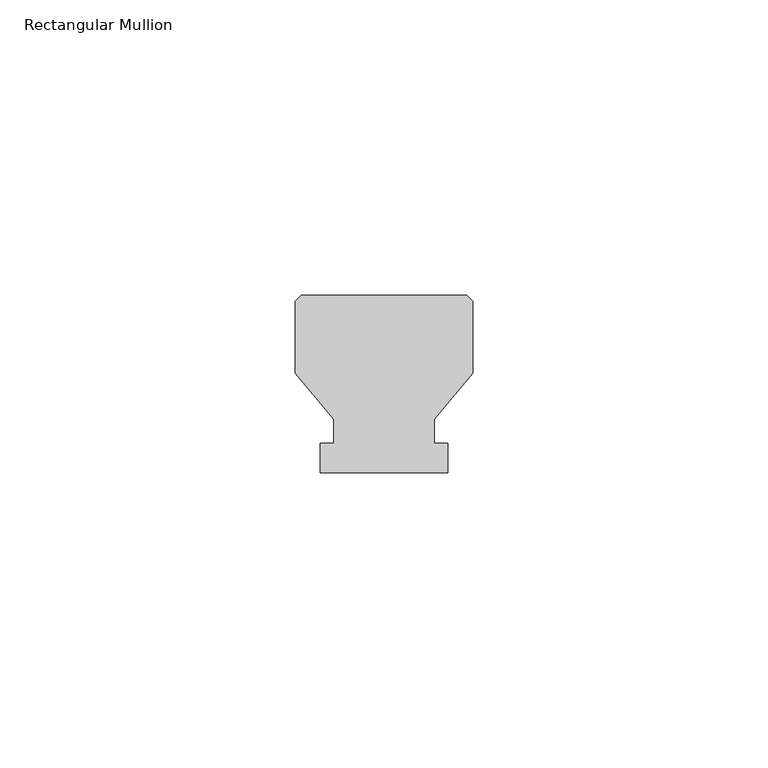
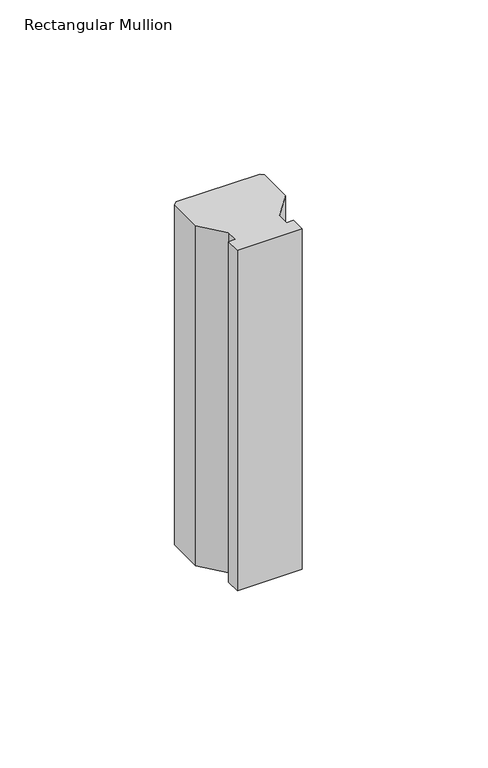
"""IFC4 building model written with IfcOpenShell, lengths in millimetres: member geometry, Rectangular Mullion : Batten_Timber_Modinex_Austratus_Grid_Fin_30x30_Hemlock."""

from ifc_helpers import new_model, si_unit, frame, origin, place, context, project, spatial, polyline, outline, extrude, source, transform, mapped, element, save


def rectangular_mullion_01bdf753(model_context):
    return source(origin(), model_context, "Body", "SweptSolid", [
        extrude(outline(polyline([(-15.0, 16.8079815), (-15.0, 29.0), (-14.0, 30.0), (14.0, 30.0), (15.0, 29.0), (15.0, 16.8079815), (8.5, 9.0), (8.5, 5.0), (10.812195, 5.0), (10.812195, 0.0), (-10.812195, 0.0), (-10.812195, 5.0), (-8.5, 5.0), (-8.5, 9.0), (-15.0, 16.8079815)])), frame((0.0, 0.0, -120.0000003), z_axis=(0.0, 0.0, 1.0), x_axis=(1.0, 0.0, 0.0)), (0.0, 0.0, 1.0), 120.0000003),
    ])


if __name__ == "__main__":
    model = new_model("IFC4")
    model_context = context("Model", 3, world=origin())
    ifc_project = project(units=[si_unit("LENGTHUNIT", "METRE", prefix="MILLI")], contexts=[model_context])
    site = spatial("IfcSite", under=ifc_project)
    building = spatial("IfcBuilding", under=site)
    placement = place(None, origin())
    rectangular_mullion_shape = rectangular_mullion_01bdf753(model_context)
    element("IfcMember", 1, ObjectType="Rectangular Mullion : Batten_Timber_Modinex_Austratus_Grid_Fin_30x30_Hemlock", at=placement, inside=building, context=model_context, shape_type="MappedRepresentation", body=[
        mapped(rectangular_mullion_shape, transform((0.0, 0.0, 0.0), x_axis=(1.0, 0.0, 0.0), y_axis=(0.0, 1.0, 0.0), z_axis=(0.0, 0.0, 1.0))),
    ])
    save(model, "model.ifc")
